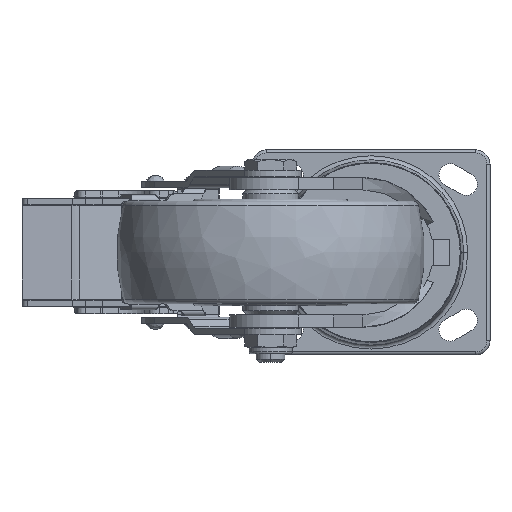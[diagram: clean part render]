
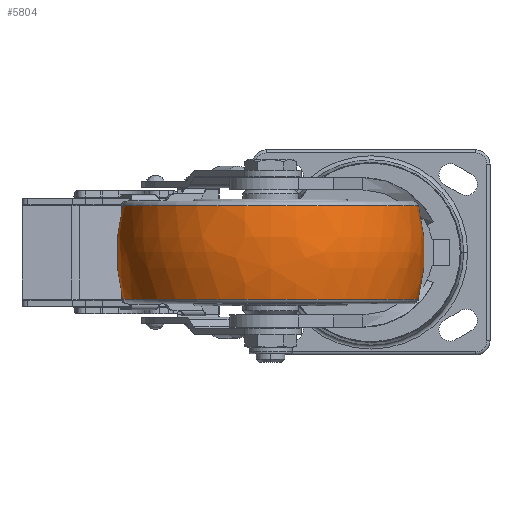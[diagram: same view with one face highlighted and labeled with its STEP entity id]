
A CAD part, front view. The second image highlights one B-rep face of the part: STEP entity #5804.
In plain terms, the highlighted free-form (B-spline) face has degree [3, 3] with [7, 4] control points.
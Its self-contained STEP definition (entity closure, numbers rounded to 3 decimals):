
#3624=CARTESIAN_POINT('',(0.,-14.999,0.));
#3625=DIRECTION('',(0.,0.,1.));
#3626=DIRECTION('',(0.253,0.967,0.));
#3627=AXIS2_PLACEMENT_3D('',#3624,#3625,#3626);
#3629=CARTESIAN_POINT('',(0.,14.999,0.));
#3630=DIRECTION('',(0.,0.,-1.));
#3631=DIRECTION('',(0.253,-0.967,0.));
#3632=AXIS2_PLACEMENT_3D('',#3629,#3630,#3631);
#3634=CARTESIAN_POINT('',(22.759,0.,0.));
#3635=DIRECTION('',(-1.,0.,0.));
#3636=DIRECTION('',(0.,1.,0.));
#3637=AXIS2_PLACEMENT_3D('',#3634,#3635,#3636);
#3649=CARTESIAN_POINT('',(-22.759,0.,0.));
#3650=DIRECTION('',(-1.,0.,0.));
#3651=DIRECTION('',(0.,1.,0.));
#3652=AXIS2_PLACEMENT_3D('',#3649,#3650,#3651);
#5477=CARTESIAN_POINT('',(22.759,72.076,0.));
#5478=CARTESIAN_POINT('',(-22.759,72.076,0.));
#5479=VERTEX_POINT('',#5477);
#5480=VERTEX_POINT('',#5478);
#5501=CARTESIAN_POINT('',(22.759,-72.076,
0.));
#5502=CARTESIAN_POINT('',(-22.759,-72.076,
0.));
#5503=VERTEX_POINT('',#5501);
#5504=VERTEX_POINT('',#5502);
#5767=CARTESIAN_POINT('',(-23.648,-71.697,
4.511));
#5768=CARTESIAN_POINT('',(-8.072,-75.93,
4.777));
#5769=CARTESIAN_POINT('',(8.072,-75.93,4.777));
#5770=CARTESIAN_POINT('',(23.648,-71.697,4.511));
#5771=CARTESIAN_POINT('',(-23.648,-74.473,
-39.612));
#5772=CARTESIAN_POINT('',(-8.072,-78.87,
-41.95));
#5773=CARTESIAN_POINT('',(8.072,-78.87,
-41.95));
#5774=CARTESIAN_POINT('',(23.648,-74.473,
-39.612));
#5775=CARTESIAN_POINT('',(-23.648,-44.21,
-71.839));
#5776=CARTESIAN_POINT('',(-8.072,-46.82,
-76.081));
#5777=CARTESIAN_POINT('',(8.072,-46.82,
-76.081));
#5778=CARTESIAN_POINT('',(23.648,-44.21,
-71.839));
#5779=CARTESIAN_POINT('',(-23.648,0.,
-71.839));
#5780=CARTESIAN_POINT('',(-8.072,0.,
-76.081));
#5781=CARTESIAN_POINT('',(8.072,0.,
-76.081));
#5782=CARTESIAN_POINT('',(23.648,0.,
-71.839));
#5783=CARTESIAN_POINT('',(-23.648,44.21,
-71.839));
#5784=CARTESIAN_POINT('',(-8.072,46.82,
-76.081));
#5785=CARTESIAN_POINT('',(8.072,46.82,-76.081));
#5786=CARTESIAN_POINT('',(23.648,44.21,-71.839));
#5787=CARTESIAN_POINT('',(-23.648,74.473,
-39.612));
#5788=CARTESIAN_POINT('',(-8.072,78.87,
-41.95));
#5789=CARTESIAN_POINT('',(8.072,78.87,-41.95));
#5790=CARTESIAN_POINT('',(23.648,74.473,-39.612));
#5791=CARTESIAN_POINT('',(-23.648,71.697,4.511));
#5792=CARTESIAN_POINT('',(-8.072,75.93,4.777));
#5793=CARTESIAN_POINT('',(8.072,75.93,4.777));
#5794=CARTESIAN_POINT('',(23.648,71.697,4.511));
#5795=(BOUNDED_SURFACE()B_SPLINE_SURFACE(3,3,((#5767,#5768,#5769,#5770),(#5771,
#5772,#5773,#5774),(#5775,#5776,#5777,#5778),(#5779,#5780,#5781,#5782),(#5783,
#5784,#5785,#5786),(#5787,#5788,#5789,#5790),(#5791,#5792,#5793,#5794)),
.UNSPECIFIED.,.F.,.F.,.F.)B_SPLINE_SURFACE_WITH_KNOTS((4,3,4),(4,4),(0.,1.,
2.),(0.,1.),.UNSPECIFIED.)GEOMETRIC_REPRESENTATION_ITEM()RATIONAL_B_SPLINE_SURFACE(((1.208,1.18,1.18,1.208),(
0.954,0.932,0.932,0.954),(
0.954,0.932,0.932,0.954),(
1.208,1.18,1.18,1.208),(
0.954,0.932,0.932,0.954),(
0.954,0.932,0.932,0.954),(
1.208,1.18,1.18,1.208)))REPRESENTATION_ITEM('')SURFACE());
#5796=ORIENTED_EDGE('',*,*,#5756,.T.);
#5798=ORIENTED_EDGE('',*,*,#5797,.T.);
#5799=ORIENTED_EDGE('',*,*,#5760,.F.);
#5801=ORIENTED_EDGE('',*,*,#5800,.F.);
#5802=EDGE_LOOP('',(#5796,#5798,#5799,#5801));
#5803=FACE_OUTER_BOUND('',#5802,.F.);
#3628=CIRCLE('',#3627,90.);
#3633=CIRCLE('',#3632,90.);
#3638=CIRCLE('',#3637,72.076);
#3653=CIRCLE('',#3652,72.076);
#5756=EDGE_CURVE('',#5479,#5480,#3628,.T.);
#5760=EDGE_CURVE('',#5503,#5504,#3633,.T.);
#5797=EDGE_CURVE('',#5480,#5504,#3653,.T.);
#5800=EDGE_CURVE('',#5479,#5503,#3638,.T.);
#5804=ADVANCED_FACE('',(#5803),#5795,.T.);
